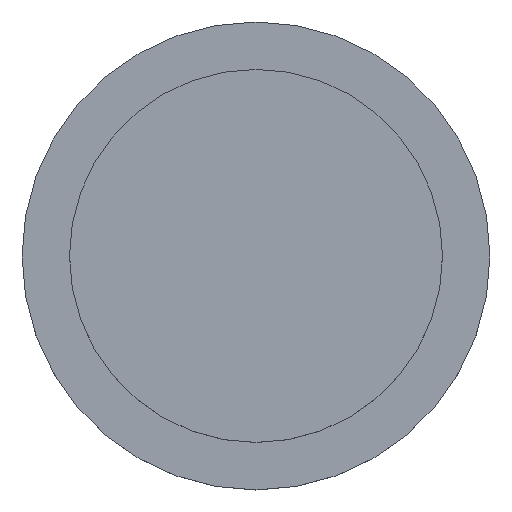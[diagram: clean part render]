
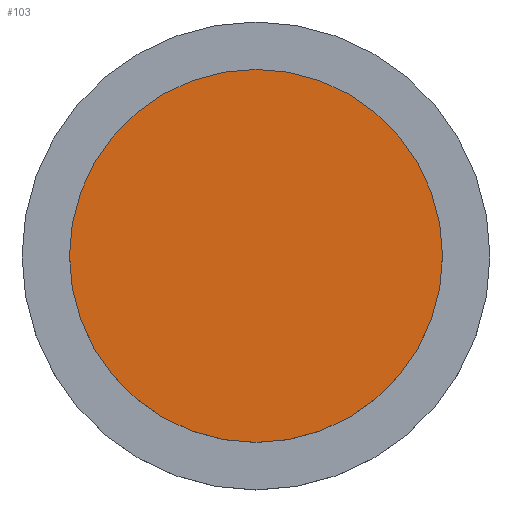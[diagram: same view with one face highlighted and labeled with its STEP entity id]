
A CAD part, top view. The second image highlights one B-rep face of the part: STEP entity #103.
In plain terms, the highlighted planar face has unit normal (0, 0, 1).
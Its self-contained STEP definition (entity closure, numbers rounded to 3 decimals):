
#103 = ADVANCED_FACE('',(#104),#115,.T.);
#104 = FACE_BOUND('',#105,.T.);
#105 = EDGE_LOOP('',(#106));
#106 = ORIENTED_EDGE('',*,*,#107,.T.);
#107 = EDGE_CURVE('',#108,#108,#110,.T.);
#108 = VERTEX_POINT('',#109);
#109 = CARTESIAN_POINT('',(12.85,7.15,2.05)
  );
#110 = CIRCLE('',#111,5.7);
#111 = AXIS2_PLACEMENT_3D('',#112,#113,#114);
#112 = CARTESIAN_POINT('',(7.15,7.15,2.05));
#113 = DIRECTION('',(0.,0.,1.));
#114 = DIRECTION('',(1.,0.,0.));
#115 = PLANE('',#116);
#116 = AXIS2_PLACEMENT_3D('',#117,#118,#119);
#117 = CARTESIAN_POINT('',(7.15,7.15,2.05));
#118 = DIRECTION('',(0.,0.,1.));
#119 = DIRECTION('',(1.,0.,0.));
